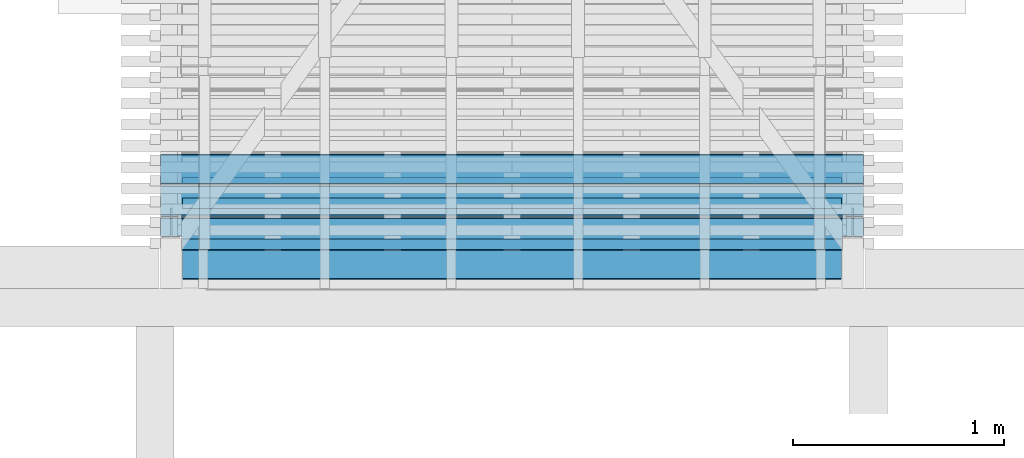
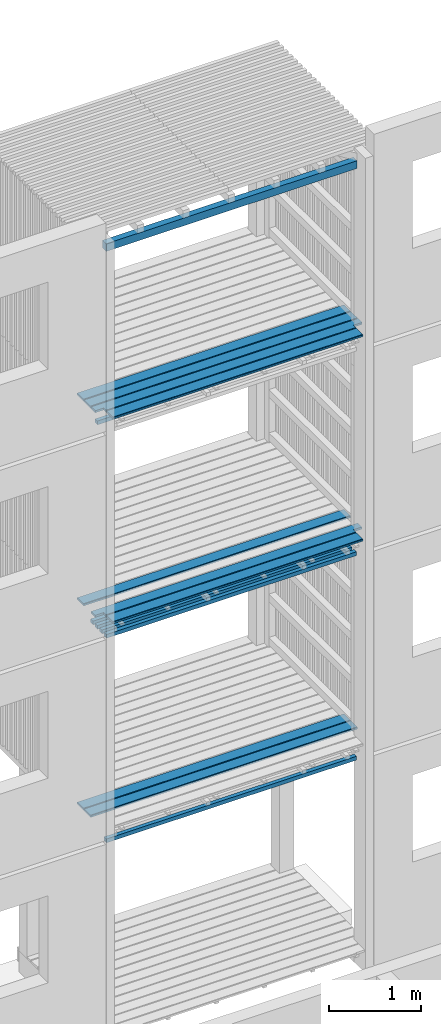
# One storey, part 86 of 182: 16 beams.
"""IFC2X3 building model written with IfcOpenShell, lengths in metres."""

import ifcopenshell
import ifcopenshell.guid

model = None  # the IFC model being written
_history = None  # IfcOwnerHistory: only IFC2X3 demands one
_inside = {}  # id of a spatial element -> (the spatial element, [elements in it])
_under = {}  # id of a project, library or spatial element -> (it, [spatial elements below it])
_declared = {}  # id of a project -> (the project, [libraries it declares])
_typed = {}  # id of a type object -> (the type object, [elements of that type])
_made_of = {}  # id of a material, layer set ... -> (it, [elements and type objects made of it])


def new_model(schema):
    """Start an empty IFC model of exactly this schema.

    Asked for "IFC4X3", IfcOpenShell would pick the latest addendum, in which some entities
    have other attributes; the version numbers below select the first issue.
    IFC2X3 requires an IfcOwnerHistory on every rooted entity: one is made here for all.
    """
    global model, _history
    if schema == "IFC4X3":
        model = ifcopenshell.file(schema_version=(4, 3, 0, 0))
    else:
        model = ifcopenshell.file(schema=schema)
    _inside.clear()
    _under.clear()
    _declared.clear()
    _typed.clear()
    _made_of.clear()
    _history = None
    if model.schema == "IFC2X3":
        org = make("IfcOrganization", Name="unknown")
        user = make(
            "IfcPersonAndOrganization",
            ThePerson=make("IfcPerson", FamilyName="unknown"),
            TheOrganization=org,
        )
        app = make(
            "IfcApplication",
            ApplicationDeveloper=org,
            Version="unknown",
            ApplicationFullName="unknown",
            ApplicationIdentifier="unknown",
        )
        _history = make(
            "IfcOwnerHistory",
            OwningUser=user,
            OwningApplication=app,
            ChangeAction="ADDED",
            CreationDate=0,
        )
    return model


def make(cls, **values):
    """One entity of the class cls with the attributes given. An attribute that is None is left unset."""
    return model.create_entity(
        cls, **{name: value for name, value in values.items() if value is not None}
    )


def rooted(cls, **values):
    """An entity with a GlobalId (a new one), such as an element, a storey or a relation."""
    return make(cls, GlobalId=ifcopenshell.guid.new(), OwnerHistory=_history, **values)


def si_unit(unit_type, name, prefix=None):
    """IfcSIUnit, for example si_unit("LENGTHUNIT", "METRE", prefix="MILLI")."""
    return make("IfcSIUnit", UnitType=unit_type, Prefix=prefix, Name=name)


def assignment(units):
    """IfcUnitAssignment: the units of a project."""
    return None if units is None else make("IfcUnitAssignment", Units=units)


def point(xyz):
    """IfcCartesianPoint."""
    return None if xyz is None else make("IfcCartesianPoint", Coordinates=xyz)


def direction(xyz):
    """IfcDirection."""
    return None if xyz is None else make("IfcDirection", DirectionRatios=xyz)


def frame(location, z_axis=None, x_axis=None):
    """IfcAxis2Placement3D, a coordinate frame: its origin and axes. An axis left out is left unset."""
    return make(
        "IfcAxis2Placement3D",
        Location=point(location),
        Axis=direction(z_axis),
        RefDirection=direction(x_axis),
    )


def origin():
    """The frame at (0, 0, 0) with its axes left unset."""
    return frame((0.0, 0.0, 0.0))


def place(relative_to, where):
    """IfcLocalPlacement: puts the frame where relative to a parent placement (None: the world)."""
    return make(
        "IfcLocalPlacement", PlacementRelTo=relative_to, RelativePlacement=where
    )


def context(
    kind, dimensions, precision=None, world=None, true_north=None, identifier=None
):
    """IfcGeometricRepresentationContext, for example the 3D "Model" context."""
    return make(
        "IfcGeometricRepresentationContext",
        ContextIdentifier=identifier,
        ContextType=kind,
        CoordinateSpaceDimension=dimensions,
        Precision=precision,
        WorldCoordinateSystem=world,
        TrueNorth=true_north,
    )


def project(units=None, contexts=None):
    """IfcProject with its units and contexts."""
    return rooted(
        "IfcProject",
        Name="project",
        RepresentationContexts=contexts,
        UnitsInContext=assignment(units),
    )


def spatial(cls, under=None, at=None, **own):
    """A site, building, storey or space (cls), placed at a placement, below another one or the project."""
    s = rooted(cls, ObjectPlacement=at, **own)
    if under is not None:
        _under.setdefault(under.id(), (under, []))[1].append(s)
    return s


def faces_of(points, faces, orient=None, outer=None):
    """IfcFace entities. A face is a list of loops; a loop is a list of indices into points, from 0.

    orient and outer hold one flag for each loop. By default every Orientation is true, the
    first loop of a face is its IfcFaceOuterBound and the others are IfcFaceBound.
    """
    made = []
    for i, loops in enumerate(faces):
        bounds = []
        for j, loop in enumerate(loops):
            is_outer = j == 0 if outer is None else outer[i][j]
            bounds.append(
                make(
                    "IfcFaceOuterBound" if is_outer else "IfcFaceBound",
                    Bound=make("IfcPolyLoop", Polygon=[points[k] for k in loop]),
                    Orientation=True if orient is None else orient[i][j],
                )
            )
        made.append(make("IfcFace", Bounds=bounds))
    return made


def faceted_brep(points, faces, orient=None, outer=None, voids=None):
    """IfcFacetedBrep: a solid bounded by flat faces; with voids (closed shells), ...WithVoids."""
    shared = [point(p) for p in points]
    hull = make("IfcClosedShell", CfsFaces=faces_of(shared, faces, orient, outer))
    if voids is None:
        return make("IfcFacetedBrep", Outer=hull)
    return make(
        "IfcFacetedBrepWithVoids",
        Outer=hull,
        Voids=[
            make(cls, CfsFaces=faces_of(shared, fs, o, b)) for cls, fs, o, b in voids
        ],
    )


def shape(context_of_items, identifier, shape_type, items):
    """IfcShapeRepresentation: the items that make up one representation, for example the "Body"."""
    return make(
        "IfcShapeRepresentation",
        ContextOfItems=context_of_items,
        RepresentationIdentifier=identifier,
        RepresentationType=shape_type,
        Items=items,
    )


def made_of(thing, what):
    """Note that an element or type object is made of a material, layer set ...; save() writes the relation."""
    if what is not None:
        _made_of.setdefault(what.id(), (what, []))[1].append(thing)
    return thing


def element(
    cls,
    number,
    at=None,
    inside=None,
    cuts=None,
    type_object=None,
    material=None,
    context=None,
    identifier="Body",
    shape_type=None,
    held_by="IfcProductDefinitionShape",
    body=None,
    shapes=None,
    **own,
):
    """One element of the class cls, such as IfcWall. Its Tag is "e" and its number.

    at: its placement. inside: the storey or other place that contains it. cuts: it is an
    opening in that element (IfcRelVoidsElement). A single representation is given by context,
    identifier, shape_type and body (its items); several are given by shapes. held_by: the class
    of the entity that holds the representations. save() writes the other relations.
    """
    e = rooted(cls, Tag="e%d" % number, ObjectPlacement=at, **own)
    if body is not None:
        shapes = [shape(context, identifier, shape_type, body)]
    if shapes is not None:
        e.Representation = make(held_by, Representations=shapes)
    if inside is not None:
        _inside.setdefault(inside.id(), (inside, []))[1].append(e)
    if cuts is not None:
        rooted(
            "IfcRelVoidsElement", RelatingBuildingElement=cuts, RelatedOpeningElement=e
        )
    if type_object is not None:
        _typed.setdefault(type_object.id(), (type_object, []))[1].append(e)
    return made_of(e, material)


def aggregate(whole, parts):
    """IfcRelAggregates: a whole, such as a stair, and the parts it consists of."""
    return rooted("IfcRelAggregates", RelatingObject=whole, RelatedObjects=parts)


def save(model, path):
    """Write the relations noted so far, then the file.

    IfcRelAggregates (storeys below a building ...), IfcRelContainedInSpatialStructure (elements
    in a storey), IfcRelDefinesByType, IfcRelAssociatesMaterial and IfcRelDeclares: one each for
    every whole, place, type object, material and project.
    """
    for whole, parts in _under.values():
        aggregate(whole, parts)
    for where, things in _inside.values():
        rooted(
            "IfcRelContainedInSpatialStructure",
            RelatedElements=things,
            RelatingStructure=where,
        )
    for kind, things in _typed.values():
        rooted("IfcRelDefinesByType", RelatedObjects=things, RelatingType=kind)
    for what, things in _made_of.values():
        rooted("IfcRelAssociatesMaterial", RelatedObjects=things, RelatingMaterial=what)
    for by, libraries in _declared.values():
        rooted("IfcRelDeclares", RelatingContext=by, RelatedDefinitions=libraries)
    model.write(path)


model = new_model("IFC2X3")

# Units and contexts
model_context = context("Model", 3, precision=1e-06, world=origin())
ifc_project = project(units=[si_unit("LENGTHUNIT", "METRE"), si_unit("PLANEANGLEUNIT", "RADIAN")], contexts=[model_context])

# Site, building, storey
site = spatial("IfcSite", under=ifc_project, CompositionType="ELEMENT")
building = spatial("IfcBuilding", under=site, CompositionType="ELEMENT")
storey = spatial("IfcBuildingStorey", under=building, Name="vs", CompositionType="ELEMENT", Elevation=-0.85)

# Beams
placement = place(None, origin())
beam_1_placement = place(placement, frame((46.240401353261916, 5.176952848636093, 5.167999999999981), z_axis=(0.0, 0.0, 1.0), x_axis=(-1.0, 0.0, 0.0)))
element("IfcBeam", 1, at=beam_1_placement, inside=storey, Name="Bardage", context=model_context, shape_type="Brep", body=[
    faceted_brep([(3.120000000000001, 0.025000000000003, -0.025), (3.120000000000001, -0.024999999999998, -0.025), (-3e-15, -0.024999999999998, -0.025), (-3e-15, 0.025000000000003, -0.025), (-3e-15, -0.024999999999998, -0.025), (3.120000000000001, -0.024999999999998, -0.025), (3.120000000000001, -0.024999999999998, 0.025000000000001), (-3e-15, -0.024999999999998, 0.025000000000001), (3.120000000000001, -0.024999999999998, -0.025), (3.120000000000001, 0.025000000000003, -0.025), (3.120000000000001, 0.025000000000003, 0.025000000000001), (3.120000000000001, -0.024999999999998, 0.025000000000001), (3.120000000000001, 0.025000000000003, 0.025000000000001), (3.120000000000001, 0.025000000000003, -0.025), (-3e-15, 0.025000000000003, -0.025), (-3e-15, 0.025000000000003, 0.025000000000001), (-3e-15, -0.024999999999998, 0.025000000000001), (3.120000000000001, -0.024999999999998, 0.025000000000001), (3.120000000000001, 0.025000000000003, 0.025000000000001), (-3e-15, 0.025000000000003, 0.025000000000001), (-3e-15, -0.024999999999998, -0.025), (-3e-15, -0.024999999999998, 0.025000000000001), (-3e-15, 0.025000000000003, 0.025000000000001), (-3e-15, 0.025000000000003, -0.025)], [[[0, 1, 2, 3]], [[4, 5, 6, 7]], [[8, 9, 10, 11]], [[12, 13, 14, 15]], [[16, 17, 18, 19]], [[20, 21, 22, 23]]]),
])
beam_2_placement = place(placement, frame((46.240401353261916, 4.984577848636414, 8.13349999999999), z_axis=(0.0, 0.0, 1.0), x_axis=(-1.0, 0.0, 0.0)))
element("IfcBeam", 2, at=beam_2_placement, inside=storey, Name="Caillebotis", context=model_context, shape_type="Brep", body=[
    faceted_brep([(-3e-15, -0.072500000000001, 0.008500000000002), (-3e-15, -0.067500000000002, 0.013499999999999), (-3e-15, 0.067499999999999, 0.013499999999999), (-3e-15, 0.072499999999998, 0.0085), (-3e-15, 0.072499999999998, -0.013500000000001), (-3e-15, -0.072500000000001, -0.013500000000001), (-3e-15, 0.072499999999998, -0.013500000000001), (-3e-15, 0.072499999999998, 0.0085), (3.120000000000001, 0.072499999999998, 0.008499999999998), (3.120000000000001, 0.072499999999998, -0.013500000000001), (-3e-15, -0.072500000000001, -0.013500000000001), (-3e-15, 0.072499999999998, -0.013500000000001), (3.120000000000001, 0.072499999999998, -0.013500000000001), (3.120000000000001, -0.072500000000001, -0.013500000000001), (-3e-15, -0.072500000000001, 0.008500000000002), (-3e-15, -0.072500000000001, -0.013500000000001), (3.120000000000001, -0.072500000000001, -0.013500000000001), (3.120000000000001, -0.072500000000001, 0.0085), (-3e-15, -0.067500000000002, 0.013499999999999), (-3e-15, -0.072500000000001, 0.008500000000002), (3.120000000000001, -0.072500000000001, 0.0085), (3.120000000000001, -0.067500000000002, 0.013499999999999), (-3e-15, 0.067499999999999, 0.013499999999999), (-3e-15, -0.067500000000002, 0.013499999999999), (3.120000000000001, -0.067500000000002, 0.013499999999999), (3.120000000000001, 0.067499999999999, 0.013499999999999), (-3e-15, 0.072499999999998, 0.0085), (-3e-15, 0.067499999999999, 0.013499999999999), (3.120000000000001, 0.067499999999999, 0.013499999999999), (3.120000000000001, 0.072499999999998, 0.008499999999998), (3.120000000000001, -0.072500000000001, -0.013500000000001), (3.120000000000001, 0.072499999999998, -0.013500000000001), (3.120000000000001, 0.072499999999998, 0.008499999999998), (3.120000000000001, 0.067499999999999, 0.013499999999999), (3.120000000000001, -0.067500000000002, 0.013499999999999), (3.120000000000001, -0.072500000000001, 0.0085)], [[[0, 1, 2, 3, 4, 5]], [[6, 7, 8, 9]], [[10, 11, 12, 13]], [[14, 15, 16, 17]], [[18, 19, 20, 21]], [[22, 23, 24, 25]], [[26, 27, 28, 29]], [[30, 31, 32, 33, 34, 35]]]),
])
beam_3_placement = place(placement, frame((46.34540135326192, 5.134577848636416, 5.433499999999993), z_axis=(0.0, 0.0, 1.0), x_axis=(-1.0, 0.0, 0.0)))
element("IfcBeam", 3, at=beam_3_placement, inside=storey, Name="Caillebotis", context=model_context, shape_type="Brep", body=[
    faceted_brep([(0.0, -0.072499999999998, -0.0135), (0.0, -0.072499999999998, 0.008500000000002), (0.0, -0.067499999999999, 0.0135), (0.0, 0.019500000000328, 0.0135), (0.0, 0.019500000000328, -0.0135), (3.329999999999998, -0.067499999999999, 0.0135), (3.329999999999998, 0.019500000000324, 0.0135), (3.225000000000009, 0.019500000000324, 0.0135), (3.225000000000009, 0.067500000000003, 0.0135), (0.105000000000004, 0.067500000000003, 0.0135), (0.105000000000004, 0.019500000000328, 0.0135), (0.0, 0.019500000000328, 0.0135), (0.0, -0.067499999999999, 0.0135), (0.105000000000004, 0.019500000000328, 0.0135), (0.105000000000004, 0.067500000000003, 0.0135), (0.105000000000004, 0.072500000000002, 0.008500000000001), (0.105000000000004, 0.072500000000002, -0.0135), (0.105000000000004, 0.019500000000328, -0.0135), (0.105000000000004, 0.072500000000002, 0.008500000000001), (0.105000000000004, 0.067500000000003, 0.0135), (3.225000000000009, 0.067500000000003, 0.0135), (3.225000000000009, 0.072500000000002, 0.0085), (0.105000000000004, 0.072500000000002, -0.0135), (0.105000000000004, 0.072500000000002, 0.008500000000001), (3.225000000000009, 0.072500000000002, 0.0085), (3.225000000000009, 0.072500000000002, -0.0135), (3.225000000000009, 0.072500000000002, -0.0135), (3.225000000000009, 0.072500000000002, 0.0085), (3.225000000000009, 0.067500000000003, 0.0135), (3.225000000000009, 0.019500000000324, 0.0135), (3.225000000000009, 0.019500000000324, -0.0135), (3.225000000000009, 0.019500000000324, -0.0135), (3.225000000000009, 0.019500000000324, 0.0135), (3.329999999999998, 0.019500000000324, 0.0135), (3.329999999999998, 0.019500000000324, -0.0135), (3.329999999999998, -0.072499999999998, 0.008500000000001), (3.329999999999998, -0.072499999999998, -0.0135), (3.329999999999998, 0.019500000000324, -0.0135), (3.329999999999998, 0.019500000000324, 0.0135), (3.329999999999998, -0.067499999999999, 0.0135), (3.329999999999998, -0.072499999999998, 0.008500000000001), (3.329999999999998, -0.067499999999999, 0.0135), (0.0, -0.067499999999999, 0.0135), (0.0, -0.072499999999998, 0.008500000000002), (3.329999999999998, -0.072499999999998, -0.0135), (3.329999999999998, -0.072499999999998, 0.008500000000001), (0.0, -0.072499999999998, 0.008500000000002), (0.0, -0.072499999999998, -0.0135), (0.105000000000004, 0.019500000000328, -0.0135), (0.105000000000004, 0.072500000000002, -0.0135), (3.225000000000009, 0.072500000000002, -0.0135), (3.225000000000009, 0.019500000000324, -0.0135), (3.329999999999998, 0.019500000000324, -0.0135), (3.329999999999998, -0.072499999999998, -0.0135), (0.0, -0.072499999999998, -0.0135), (0.0, 0.019500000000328, -0.0135), (0.0, 0.019500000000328, 0.0135), (0.105000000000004, 0.019500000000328, 0.0135), (0.105000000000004, 0.019500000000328, -0.0135), (0.0, 0.019500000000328, -0.0135)], [[[0, 1, 2, 3, 4]], [[5, 6, 7, 8, 9, 10, 11, 12]], [[13, 14, 15, 16, 17]], [[18, 19, 20, 21]], [[22, 23, 24, 25]], [[26, 27, 28, 29, 30]], [[31, 32, 33, 34]], [[35, 36, 37, 38, 39]], [[40, 41, 42, 43]], [[44, 45, 46, 47]], [[48, 49, 50, 51, 52, 53, 54, 55]], [[56, 57, 58, 59]]]),
])
beam_4_placement = place(placement, frame((46.34540135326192, 5.434577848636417, 8.13349999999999), z_axis=(0.0, 0.0, 1.0), x_axis=(-1.0, -1e-15, 0.0)))
element("IfcBeam", 4, at=beam_4_placement, inside=storey, Name="Caillebotis", context=model_context, shape_type="Brep", body=[
    faceted_brep([(3.329999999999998, -0.072500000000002, -0.013500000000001), (3.329999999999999, 0.072500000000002, -0.013500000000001), (3.329999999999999, 0.072500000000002, 0.008499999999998), (3.329999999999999, 0.067499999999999, 0.013499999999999), (3.329999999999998, -0.067499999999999, 0.013499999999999), (3.329999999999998, -0.072500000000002, 0.0085), (0.0, -0.072499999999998, 0.0085), (0.0, -0.067499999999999, 0.013499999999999), (0.0, 0.067500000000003, 0.013499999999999), (0.0, 0.072500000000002, 0.008499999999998), (0.0, 0.072500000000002, -0.013500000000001), (0.0, -0.072499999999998, -0.013500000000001), (3.329999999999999, 0.072500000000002, 0.008499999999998), (3.329999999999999, 0.072500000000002, -0.013500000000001), (0.0, 0.072500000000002, -0.013500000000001), (0.0, 0.072500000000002, 0.008499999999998), (3.329999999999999, 0.067499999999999, 0.013499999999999), (3.329999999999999, 0.072500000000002, 0.008499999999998), (0.0, 0.072500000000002, 0.008499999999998), (0.0, 0.067500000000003, 0.013499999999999), (3.329999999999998, -0.067499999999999, 0.013499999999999), (3.329999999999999, 0.067499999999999, 0.013499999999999), (0.0, 0.067500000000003, 0.013499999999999), (0.0, -0.067499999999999, 0.013499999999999), (3.329999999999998, -0.072500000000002, 0.0085), (3.329999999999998, -0.067499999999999, 0.013499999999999), (0.0, -0.067499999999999, 0.013499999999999), (0.0, -0.072499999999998, 0.0085), (3.329999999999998, -0.072500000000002, -0.013500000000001), (3.329999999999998, -0.072500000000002, 0.0085), (0.0, -0.072499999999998, 0.0085), (0.0, -0.072499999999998, -0.013500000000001), (0.0, 0.072500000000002, -0.013500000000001), (3.329999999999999, 0.072500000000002, -0.013500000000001), (3.329999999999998, -0.072500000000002, -0.013500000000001), (0.0, -0.072499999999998, -0.013500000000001)], [[[0, 1, 2, 3, 4, 5]], [[6, 7, 8, 9, 10, 11]], [[12, 13, 14, 15]], [[16, 17, 18, 19]], [[20, 21, 22, 23]], [[24, 25, 26, 27]], [[28, 29, 30, 31]], [[32, 33, 34, 35]]]),
])
beam_5_placement = place(placement, frame((46.34540135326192, 5.434577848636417, 5.433499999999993), z_axis=(0.0, 0.0, 1.0), x_axis=(-1.0, -1e-15, 0.0)))
element("IfcBeam", 5, at=beam_5_placement, inside=storey, Name="Caillebotis", context=model_context, shape_type="Brep", body=[
    faceted_brep([(3.329999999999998, -0.072500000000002, -0.0135), (3.329999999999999, 0.072500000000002, -0.0135), (3.329999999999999, 0.072500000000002, 0.0085), (3.329999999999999, 0.067499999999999, 0.0135), (3.329999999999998, -0.067499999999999, 0.0135), (3.329999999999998, -0.072500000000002, 0.008500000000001), (0.0, -0.072499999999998, 0.008500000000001), (0.0, -0.067499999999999, 0.0135), (0.0, 0.067500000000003, 0.0135), (0.0, 0.072500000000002, 0.0085), (0.0, 0.072500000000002, -0.0135), (0.0, -0.072499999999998, -0.0135), (3.329999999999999, 0.072500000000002, 0.0085), (3.329999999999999, 0.072500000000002, -0.0135), (0.0, 0.072500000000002, -0.0135), (0.0, 0.072500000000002, 0.0085), (3.329999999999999, 0.067499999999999, 0.0135), (3.329999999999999, 0.072500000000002, 0.0085), (0.0, 0.072500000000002, 0.0085), (0.0, 0.067500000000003, 0.0135), (3.329999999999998, -0.067499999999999, 0.0135), (3.329999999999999, 0.067499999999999, 0.0135), (0.0, 0.067500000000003, 0.0135), (0.0, -0.067499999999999, 0.0135), (3.329999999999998, -0.072500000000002, 0.008500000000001), (3.329999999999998, -0.067499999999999, 0.0135), (0.0, -0.067499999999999, 0.0135), (0.0, -0.072499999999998, 0.008500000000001), (3.329999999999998, -0.072500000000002, -0.0135), (3.329999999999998, -0.072500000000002, 0.008500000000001), (0.0, -0.072499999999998, 0.008500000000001), (0.0, -0.072499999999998, -0.0135), (0.0, 0.072500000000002, -0.0135), (3.329999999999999, 0.072500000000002, -0.0135), (3.329999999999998, -0.072500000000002, -0.0135), (0.0, -0.072499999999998, -0.0135)], [[[0, 1, 2, 3, 4, 5]], [[6, 7, 8, 9, 10, 11]], [[12, 13, 14, 15]], [[16, 17, 18, 19]], [[20, 21, 22, 23]], [[24, 25, 26, 27]], [[28, 29, 30, 31]], [[32, 33, 34, 35]]]),
])
beam_6_placement = place(placement, frame((46.240401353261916, 5.273827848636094, 5.167999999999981), z_axis=(0.0, 0.0, 1.0), x_axis=(-1.0, 0.0, 0.0)))
element("IfcBeam", 6, at=beam_6_placement, inside=storey, Name="Bardage", context=model_context, shape_type="Brep", body=[
    faceted_brep([(3.120000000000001, 0.025000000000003, -0.025), (3.120000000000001, -0.024999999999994, -0.025), (-3e-15, -0.024999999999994, -0.025), (-3e-15, 0.025000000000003, -0.025), (-3e-15, -0.024999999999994, -0.025), (3.120000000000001, -0.024999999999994, -0.025), (3.120000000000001, -0.024999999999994, 0.025000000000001), (-3e-15, -0.024999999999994, 0.025000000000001), (3.120000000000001, -0.024999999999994, -0.025), (3.120000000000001, 0.025000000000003, -0.025), (3.120000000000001, 0.025000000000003, 0.025000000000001), (3.120000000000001, -0.024999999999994, 0.025000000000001), (3.120000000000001, 0.025000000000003, 0.025000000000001), (3.120000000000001, 0.025000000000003, -0.025), (-3e-15, 0.025000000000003, -0.025), (-3e-15, 0.025000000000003, 0.025000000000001), (-3e-15, -0.024999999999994, 0.025000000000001), (3.120000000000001, -0.024999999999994, 0.025000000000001), (3.120000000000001, 0.025000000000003, 0.025000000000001), (-3e-15, 0.025000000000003, 0.025000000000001), (-3e-15, -0.024999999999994, -0.025), (-3e-15, -0.024999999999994, 0.025000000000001), (-3e-15, 0.025000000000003, 0.025000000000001), (-3e-15, 0.025000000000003, -0.025)], [[[0, 1, 2, 3]], [[4, 5, 6, 7]], [[8, 9, 10, 11]], [[12, 13, 14, 15]], [[16, 17, 18, 19]], [[20, 21, 22, 23]]]),
])
beam_7_placement = place(placement, frame((46.240401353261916, 5.080077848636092, 2.467999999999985), z_axis=(0.0, 0.0, 1.0), x_axis=(-1.0, 0.0, 0.0)))
element("IfcBeam", 7, at=beam_7_placement, inside=storey, Name="Bardage", context=model_context, shape_type="Brep", body=[
    faceted_brep([(3.120000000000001, -0.025000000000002, 0.025), (3.120000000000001, -0.025000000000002, -0.025), (3.120000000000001, 0.024999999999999, -0.025), (3.120000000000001, 0.024999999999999, 0.025), (-3e-15, 0.024999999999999, 0.025), (-3e-15, 0.024999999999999, -0.025), (-3e-15, -0.025000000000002, -0.025), (-3e-15, -0.025000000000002, 0.025), (3.120000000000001, -0.025000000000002, -0.025), (3.120000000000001, -0.025000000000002, 0.025), (-3e-15, -0.025000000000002, 0.025), (-3e-15, -0.025000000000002, -0.025), (3.120000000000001, 0.024999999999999, -0.025), (3.120000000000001, -0.025000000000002, -0.025), (-3e-15, -0.025000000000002, -0.025), (-3e-15, 0.024999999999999, -0.025), (3.120000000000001, 0.024999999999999, 0.025), (3.120000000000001, 0.024999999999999, -0.025), (-3e-15, 0.024999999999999, -0.025), (-3e-15, 0.024999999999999, 0.025), (3.120000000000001, -0.025000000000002, 0.025), (3.120000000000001, 0.024999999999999, 0.025), (-3e-15, 0.024999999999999, 0.025), (-3e-15, -0.025000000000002, 0.025)], [[[0, 1, 2, 3]], [[4, 5, 6, 7]], [[8, 9, 10, 11]], [[12, 13, 14, 15]], [[16, 17, 18, 19]], [[20, 21, 22, 23]]]),
])
beam_8_placement = place(placement, frame((46.240401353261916, 4.984577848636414, 5.433499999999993), z_axis=(0.0, 0.0, 1.0), x_axis=(-1.0, 0.0, 0.0)))
element("IfcBeam", 8, at=beam_8_placement, inside=storey, Name="Caillebotis", context=model_context, shape_type="Brep", body=[
    faceted_brep([(-3e-15, -0.072500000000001, 0.008500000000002), (-3e-15, -0.067500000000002, 0.0135), (-3e-15, 0.067499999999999, 0.0135), (-3e-15, 0.072499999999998, 0.008500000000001), (-3e-15, 0.072499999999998, -0.0135), (-3e-15, -0.072500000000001, -0.0135), (-3e-15, 0.072499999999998, -0.0135), (-3e-15, 0.072499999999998, 0.008500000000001), (3.120000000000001, 0.072499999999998, 0.0085), (3.120000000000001, 0.072499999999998, -0.0135), (-3e-15, -0.072500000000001, -0.0135), (-3e-15, 0.072499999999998, -0.0135), (3.120000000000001, 0.072499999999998, -0.0135), (3.120000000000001, -0.072500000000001, -0.0135), (-3e-15, -0.072500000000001, 0.008500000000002), (-3e-15, -0.072500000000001, -0.0135), (3.120000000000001, -0.072500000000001, -0.0135), (3.120000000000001, -0.072500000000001, 0.008500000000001), (-3e-15, -0.067500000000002, 0.0135), (-3e-15, -0.072500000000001, 0.008500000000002), (3.120000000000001, -0.072500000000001, 0.008500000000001), (3.120000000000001, -0.067500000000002, 0.0135), (-3e-15, 0.067499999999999, 0.0135), (-3e-15, -0.067500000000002, 0.0135), (3.120000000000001, -0.067500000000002, 0.0135), (3.120000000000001, 0.067499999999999, 0.0135), (-3e-15, 0.072499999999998, 0.008500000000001), (-3e-15, 0.067499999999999, 0.0135), (3.120000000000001, 0.067499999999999, 0.0135), (3.120000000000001, 0.072499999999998, 0.0085), (3.120000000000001, -0.072500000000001, -0.0135), (3.120000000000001, 0.072499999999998, -0.0135), (3.120000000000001, 0.072499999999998, 0.0085), (3.120000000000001, 0.067499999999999, 0.0135), (3.120000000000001, -0.067500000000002, 0.0135), (3.120000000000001, -0.072500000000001, 0.008500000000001)], [[[0, 1, 2, 3, 4, 5]], [[6, 7, 8, 9]], [[10, 11, 12, 13]], [[14, 15, 16, 17]], [[18, 19, 20, 21]], [[22, 23, 24, 25]], [[26, 27, 28, 29]], [[30, 31, 32, 33, 34, 35]]]),
])
beam_9_placement = place(placement, frame((46.240401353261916, 5.080077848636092, 5.167999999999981), z_axis=(0.0, 0.0, 1.0), x_axis=(-1.0, 0.0, 0.0)))
element("IfcBeam", 9, at=beam_9_placement, inside=storey, Name="Bardage", context=model_context, shape_type="Brep", body=[
    faceted_brep([(3.120000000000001, -0.025000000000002, 0.025000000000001), (3.120000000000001, -0.025000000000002, -0.025), (3.120000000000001, 0.024999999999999, -0.025), (3.120000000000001, 0.024999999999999, 0.025000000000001), (-3e-15, 0.024999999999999, 0.025000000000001), (-3e-15, 0.024999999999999, -0.025), (-3e-15, -0.024999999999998, -0.025), (-3e-15, -0.024999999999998, 0.025000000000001), (3.120000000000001, -0.025000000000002, -0.025), (3.120000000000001, -0.025000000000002, 0.025000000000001), (-3e-15, -0.024999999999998, 0.025000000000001), (-3e-15, -0.024999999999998, -0.025), (3.120000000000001, 0.024999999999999, -0.025), (3.120000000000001, -0.025000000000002, -0.025), (-3e-15, -0.024999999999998, -0.025), (-3e-15, 0.024999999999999, -0.025), (3.120000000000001, 0.024999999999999, 0.025000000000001), (3.120000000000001, 0.024999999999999, -0.025), (-3e-15, 0.024999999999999, -0.025), (-3e-15, 0.024999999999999, 0.025000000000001), (3.120000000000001, -0.025000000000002, 0.025000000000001), (3.120000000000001, 0.024999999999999, 0.025000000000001), (-3e-15, 0.024999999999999, 0.025000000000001), (-3e-15, -0.024999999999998, 0.025000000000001)], [[[0, 1, 2, 3]], [[4, 5, 6, 7]], [[8, 9, 10, 11]], [[12, 13, 14, 15]], [[16, 17, 18, 19]], [[20, 21, 22, 23]]]),
])
beam_10_placement = place(placement, frame((46.245401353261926, 5.09007784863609, 10.30499999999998), z_axis=(0.0, 0.0, 1.0), x_axis=(-1.0, 0.0, 0.0)))
element("IfcBeam", 10, at=beam_10_placement, inside=storey, Name="Support bardage", context=model_context, shape_type="Brep", body=[
    faceted_brep([(2e-15, 0.04, -0.050000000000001), (2e-15, -0.039999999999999, -0.050000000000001), (2e-15, -0.039999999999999, 0.050000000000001), (2e-15, 0.04, 0.050000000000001), (3.130000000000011, -0.039999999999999, 0.050000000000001), (3.130000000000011, -0.039999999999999, -0.050000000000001), (3.130000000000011, 0.04, -0.050000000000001), (3.130000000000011, 0.04, 0.050000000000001), (2e-15, -0.039999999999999, 0.050000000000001), (2e-15, -0.039999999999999, -0.050000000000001), (3.130000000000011, -0.039999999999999, -0.050000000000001), (3.130000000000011, -0.039999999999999, 0.050000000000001), (3.130000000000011, -0.039999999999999, -0.050000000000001), (2e-15, -0.039999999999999, -0.050000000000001), (2e-15, 0.04, -0.050000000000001), (3.130000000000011, 0.04, -0.050000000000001), (3.130000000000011, 0.04, -0.050000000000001), (2e-15, 0.04, -0.050000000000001), (2e-15, 0.04, 0.050000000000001), (3.130000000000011, 0.04, 0.050000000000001), (3.130000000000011, 0.04, 0.050000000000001), (2e-15, 0.04, 0.050000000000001), (2e-15, -0.039999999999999, 0.050000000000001), (3.130000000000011, -0.039999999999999, 0.050000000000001)], [[[0, 1, 2, 3]], [[4, 5, 6, 7]], [[8, 9, 10, 11]], [[12, 13, 14, 15]], [[16, 17, 18, 19]], [[20, 21, 22, 23]]]),
])
beam_11_placement = place(placement, frame((46.240401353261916, 5.273827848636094, 7.867999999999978), z_axis=(0.0, 0.0, 1.0), x_axis=(-1.0, 0.0, 0.0)))
element("IfcBeam", 11, at=beam_11_placement, inside=storey, Name="Bardage", context=model_context, shape_type="Brep", body=[
    faceted_brep([(3.120000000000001, 0.025000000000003, -0.025000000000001), (3.120000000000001, -0.024999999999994, -0.025000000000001), (-3e-15, -0.024999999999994, -0.025000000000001), (-3e-15, 0.025000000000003, -0.025000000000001), (-3e-15, -0.024999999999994, -0.025000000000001), (3.120000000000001, -0.024999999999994, -0.025000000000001), (3.120000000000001, -0.024999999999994, 0.024999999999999), (-3e-15, -0.024999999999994, 0.024999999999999), (3.120000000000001, -0.024999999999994, -0.025000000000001), (3.120000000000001, 0.025000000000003, -0.025000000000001), (3.120000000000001, 0.025000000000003, 0.024999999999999), (3.120000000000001, -0.024999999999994, 0.024999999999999), (3.120000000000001, 0.025000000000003, 0.024999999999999), (3.120000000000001, 0.025000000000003, -0.025000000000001), (-3e-15, 0.025000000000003, -0.025000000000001), (-3e-15, 0.025000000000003, 0.024999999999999), (-3e-15, -0.024999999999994, 0.024999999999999), (3.120000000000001, -0.024999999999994, 0.024999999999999), (3.120000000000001, 0.025000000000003, 0.024999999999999), (-3e-15, 0.025000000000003, 0.024999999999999), (-3e-15, -0.024999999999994, -0.025000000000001), (-3e-15, -0.024999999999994, 0.024999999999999), (-3e-15, 0.025000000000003, 0.024999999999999), (-3e-15, 0.025000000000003, -0.025000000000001)], [[[0, 1, 2, 3]], [[4, 5, 6, 7]], [[8, 9, 10, 11]], [[12, 13, 14, 15]], [[16, 17, 18, 19]], [[20, 21, 22, 23]]]),
])
beam_12_placement = place(placement, frame((46.34540135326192, 5.284577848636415, 8.13349999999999), z_axis=(0.0, 0.0, 1.0), x_axis=(-1.0, -2e-15, 0.0)))
element("IfcBeam", 12, at=beam_12_placement, inside=storey, Name="Caillebotis", context=model_context, shape_type="Brep", body=[
    faceted_brep([(3.329999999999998, -0.072500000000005, -0.013500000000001), (3.329999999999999, 0.072499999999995, -0.013500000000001), (3.329999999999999, 0.072499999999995, 0.008499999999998), (3.329999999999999, 0.067499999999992, 0.013499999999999), (3.329999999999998, -0.067500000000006, 0.013499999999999), (3.329999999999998, -0.072500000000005, 0.0085), (0.0, -0.072500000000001, 0.0085), (0.0, -0.067499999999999, 0.013499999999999), (0.0, 0.067500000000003, 0.013499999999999), (0.0, 0.072500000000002, 0.008499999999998), (0.0, 0.072500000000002, -0.013500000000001), (0.0, -0.072500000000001, -0.013500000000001), (3.329999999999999, 0.072499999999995, 0.008499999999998), (3.329999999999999, 0.072499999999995, -0.013500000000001), (0.0, 0.072500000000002, -0.013500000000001), (0.0, 0.072500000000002, 0.008499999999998), (3.329999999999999, 0.067499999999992, 0.013499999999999), (3.329999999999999, 0.072499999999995, 0.008499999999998), (0.0, 0.072500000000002, 0.008499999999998), (0.0, 0.067500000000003, 0.013499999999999), (3.329999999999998, -0.067500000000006, 0.013499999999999), (3.329999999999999, 0.067499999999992, 0.013499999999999), (0.0, 0.067500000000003, 0.013499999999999), (0.0, -0.067499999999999, 0.013499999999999), (3.329999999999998, -0.072500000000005, 0.0085), (3.329999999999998, -0.067500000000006, 0.013499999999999), (0.0, -0.067499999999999, 0.013499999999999), (0.0, -0.072500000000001, 0.0085), (3.329999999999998, -0.072500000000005, -0.013500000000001), (3.329999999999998, -0.072500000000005, 0.0085), (0.0, -0.072500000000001, 0.0085), (0.0, -0.072500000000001, -0.013500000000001), (0.0, 0.072500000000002, -0.013500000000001), (3.329999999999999, 0.072499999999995, -0.013500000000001), (3.329999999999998, -0.072500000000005, -0.013500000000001), (0.0, -0.072500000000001, -0.013500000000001)], [[[0, 1, 2, 3, 4, 5]], [[6, 7, 8, 9, 10, 11]], [[12, 13, 14, 15]], [[16, 17, 18, 19]], [[20, 21, 22, 23]], [[24, 25, 26, 27]], [[28, 29, 30, 31]], [[32, 33, 34, 35]]]),
])
beam_13_placement = place(placement, frame((46.34540135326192, 5.134577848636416, 8.13349999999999), z_axis=(0.0, 0.0, 1.0), x_axis=(-1.0, 0.0, 0.0)))
element("IfcBeam", 13, at=beam_13_placement, inside=storey, Name="Caillebotis", context=model_context, shape_type="Brep", body=[
    faceted_brep([(0.0, -0.072499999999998, -0.013500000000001), (0.0, -0.072499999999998, 0.0085), (0.0, -0.067499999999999, 0.013499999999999), (0.0, 0.019500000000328, 0.013499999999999), (0.0, 0.019500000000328, -0.013500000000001), (3.329999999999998, -0.067499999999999, 0.013499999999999), (3.329999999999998, 0.019500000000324, 0.013499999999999), (3.225000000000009, 0.019500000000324, 0.013499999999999), (3.225000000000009, 0.067500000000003, 0.013499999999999), (0.105000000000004, 0.067500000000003, 0.013499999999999), (0.105000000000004, 0.019500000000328, 0.013499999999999), (0.0, 0.019500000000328, 0.013499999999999), (0.0, -0.067499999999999, 0.013499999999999), (0.105000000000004, 0.019500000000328, 0.013499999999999), (0.105000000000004, 0.067500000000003, 0.013499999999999), (0.105000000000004, 0.072500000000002, 0.0085), (0.105000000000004, 0.072500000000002, -0.013500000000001), (0.105000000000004, 0.019500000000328, -0.013500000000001), (0.105000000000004, 0.072500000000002, 0.0085), (0.105000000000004, 0.067500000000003, 0.013499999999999), (3.225000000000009, 0.067500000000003, 0.013499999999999), (3.225000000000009, 0.072500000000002, 0.008499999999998), (0.105000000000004, 0.072500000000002, -0.013500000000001), (0.105000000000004, 0.072500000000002, 0.0085), (3.225000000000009, 0.072500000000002, 0.008499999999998), (3.225000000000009, 0.072500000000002, -0.013500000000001), (3.225000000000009, 0.072500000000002, -0.013500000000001), (3.225000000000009, 0.072500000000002, 0.008499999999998), (3.225000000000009, 0.067500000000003, 0.013499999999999), (3.225000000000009, 0.019500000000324, 0.013499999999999), (3.225000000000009, 0.019500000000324, -0.013500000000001), (3.225000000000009, 0.019500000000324, -0.013500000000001), (3.225000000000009, 0.019500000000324, 0.013499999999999), (3.329999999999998, 0.019500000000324, 0.013499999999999), (3.329999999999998, 0.019500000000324, -0.013500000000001), (3.329999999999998, -0.072499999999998, 0.0085), (3.329999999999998, -0.072499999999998, -0.013500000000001), (3.329999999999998, 0.019500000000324, -0.013500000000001), (3.329999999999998, 0.019500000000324, 0.013499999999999), (3.329999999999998, -0.067499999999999, 0.013499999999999), (3.329999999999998, -0.072499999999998, 0.0085), (3.329999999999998, -0.067499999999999, 0.013499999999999), (0.0, -0.067499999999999, 0.013499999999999), (0.0, -0.072499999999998, 0.0085), (3.329999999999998, -0.072499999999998, -0.013500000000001), (3.329999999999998, -0.072499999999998, 0.0085), (0.0, -0.072499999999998, 0.0085), (0.0, -0.072499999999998, -0.013500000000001), (0.105000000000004, 0.019500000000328, -0.013500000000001), (0.105000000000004, 0.072500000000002, -0.013500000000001), (3.225000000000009, 0.072500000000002, -0.013500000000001), (3.225000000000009, 0.019500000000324, -0.013500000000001), (3.329999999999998, 0.019500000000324, -0.013500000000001), (3.329999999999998, -0.072499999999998, -0.013500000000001), (0.0, -0.072499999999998, -0.013500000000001), (0.0, 0.019500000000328, -0.013500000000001), (0.0, 0.019500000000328, 0.013499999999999), (0.105000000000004, 0.019500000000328, 0.013499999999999), (0.105000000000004, 0.019500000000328, -0.013500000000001), (0.0, 0.019500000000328, -0.013500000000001)], [[[0, 1, 2, 3, 4]], [[5, 6, 7, 8, 9, 10, 11, 12]], [[13, 14, 15, 16, 17]], [[18, 19, 20, 21]], [[22, 23, 24, 25]], [[26, 27, 28, 29, 30]], [[31, 32, 33, 34]], [[35, 36, 37, 38, 39]], [[40, 41, 42, 43]], [[44, 45, 46, 47]], [[48, 49, 50, 51, 52, 53, 54, 55]], [[56, 57, 58, 59]]]),
])
beam_14_placement = place(placement, frame((46.240401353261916, 5.370702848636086, 5.167999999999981), z_axis=(0.0, 0.0, 1.0), x_axis=(-1.0, 0.0, 0.0)))
element("IfcBeam", 14, at=beam_14_placement, inside=storey, Name="Bardage", context=model_context, shape_type="Brep", body=[
    faceted_brep([(3.120000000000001, 0.024999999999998, -0.025), (3.120000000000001, -0.025000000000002, -0.025), (-3e-15, -0.025000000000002, -0.025), (-3e-15, 0.024999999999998, -0.025), (-3e-15, -0.025000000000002, -0.025), (3.120000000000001, -0.025000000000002, -0.025), (3.120000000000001, -0.025000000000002, 0.025000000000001), (-3e-15, -0.025000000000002, 0.025000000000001), (3.120000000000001, -0.025000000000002, -0.025), (3.120000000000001, 0.024999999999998, -0.025), (3.120000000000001, 0.024999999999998, 0.025000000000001), (3.120000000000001, -0.025000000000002, 0.025000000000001), (3.120000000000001, 0.024999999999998, 0.025000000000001), (3.120000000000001, 0.024999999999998, -0.025), (-3e-15, 0.024999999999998, -0.025), (-3e-15, 0.024999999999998, 0.025000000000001), (-3e-15, -0.025000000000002, 0.025000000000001), (3.120000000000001, -0.025000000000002, 0.025000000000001), (3.120000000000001, 0.024999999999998, 0.025000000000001), (-3e-15, 0.024999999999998, 0.025000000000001), (-3e-15, -0.025000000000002, -0.025), (-3e-15, -0.025000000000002, 0.025000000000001), (-3e-15, 0.024999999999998, 0.025000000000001), (-3e-15, 0.024999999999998, -0.025)], [[[0, 1, 2, 3]], [[4, 5, 6, 7]], [[8, 9, 10, 11]], [[12, 13, 14, 15]], [[16, 17, 18, 19]], [[20, 21, 22, 23]]]),
])
beam_15_placement = place(placement, frame((46.34540135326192, 5.434577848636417, 2.733499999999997), z_axis=(0.0, 0.0, 1.0), x_axis=(-1.0, -1e-15, 0.0)))
element("IfcBeam", 15, at=beam_15_placement, inside=storey, Name="Caillebotis", context=model_context, shape_type="Brep", body=[
    faceted_brep([(3.329999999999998, -0.072500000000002, -0.0135), (3.329999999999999, 0.072500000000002, -0.0135), (3.329999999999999, 0.072500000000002, 0.0085), (3.329999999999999, 0.067499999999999, 0.0135), (3.329999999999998, -0.067499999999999, 0.0135), (3.329999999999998, -0.072500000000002, 0.008500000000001), (0.0, -0.072499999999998, 0.008500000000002), (0.0, -0.067499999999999, 0.0135), (0.0, 0.067500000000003, 0.0135), (0.0, 0.072500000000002, 0.0085), (0.0, 0.072500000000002, -0.0135), (0.0, -0.072499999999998, -0.0135), (3.329999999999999, 0.072500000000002, 0.0085), (3.329999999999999, 0.072500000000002, -0.0135), (0.0, 0.072500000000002, -0.0135), (0.0, 0.072500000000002, 0.0085), (3.329999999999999, 0.067499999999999, 0.0135), (3.329999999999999, 0.072500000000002, 0.0085), (0.0, 0.072500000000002, 0.0085), (0.0, 0.067500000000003, 0.0135), (3.329999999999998, -0.067499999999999, 0.0135), (3.329999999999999, 0.067499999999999, 0.0135), (0.0, 0.067500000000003, 0.0135), (0.0, -0.067499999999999, 0.0135), (3.329999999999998, -0.072500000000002, 0.008500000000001), (3.329999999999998, -0.067499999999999, 0.0135), (0.0, -0.067499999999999, 0.0135), (0.0, -0.072499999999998, 0.008500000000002), (3.329999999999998, -0.072500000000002, -0.0135), (3.329999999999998, -0.072500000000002, 0.008500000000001), (0.0, -0.072499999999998, 0.008500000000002), (0.0, -0.072499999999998, -0.0135), (0.0, 0.072500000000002, -0.0135), (3.329999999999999, 0.072500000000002, -0.0135), (3.329999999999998, -0.072500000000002, -0.0135), (0.0, -0.072499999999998, -0.0135)], [[[0, 1, 2, 3, 4, 5]], [[6, 7, 8, 9, 10, 11]], [[12, 13, 14, 15]], [[16, 17, 18, 19]], [[20, 21, 22, 23]], [[24, 25, 26, 27]], [[28, 29, 30, 31]], [[32, 33, 34, 35]]]),
])
beam_16_placement = place(placement, frame((46.34540135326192, 5.284577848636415, 2.733499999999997), z_axis=(0.0, 0.0, 1.0), x_axis=(-1.0, -2e-15, 0.0)))
element("IfcBeam", 16, at=beam_16_placement, inside=storey, Name="Caillebotis", context=model_context, shape_type="Brep", body=[
    faceted_brep([(3.329999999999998, -0.072500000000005, -0.0135), (3.329999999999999, 0.072499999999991, -0.0135), (3.329999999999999, 0.072499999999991, 0.0085), (3.329999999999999, 0.067499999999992, 0.0135), (3.329999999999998, -0.067500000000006, 0.0135), (3.329999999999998, -0.072500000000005, 0.008500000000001), (0.0, -0.072500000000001, 0.008500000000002), (0.0, -0.067499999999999, 0.0135), (0.0, 0.067499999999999, 0.0135), (0.0, 0.072500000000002, 0.0085), (0.0, 0.072500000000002, -0.0135), (0.0, -0.072500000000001, -0.0135), (3.329999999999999, 0.072499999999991, 0.0085), (3.329999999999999, 0.072499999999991, -0.0135), (0.0, 0.072500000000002, -0.0135), (0.0, 0.072500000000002, 0.0085), (3.329999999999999, 0.067499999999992, 0.0135), (3.329999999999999, 0.072499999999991, 0.0085), (0.0, 0.072500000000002, 0.0085), (0.0, 0.067499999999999, 0.0135), (3.329999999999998, -0.067500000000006, 0.0135), (3.329999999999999, 0.067499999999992, 0.0135), (0.0, 0.067499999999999, 0.0135), (0.0, -0.067499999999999, 0.0135), (3.329999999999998, -0.072500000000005, 0.008500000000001), (3.329999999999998, -0.067500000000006, 0.0135), (0.0, -0.067499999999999, 0.0135), (0.0, -0.072500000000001, 0.008500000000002), (3.329999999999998, -0.072500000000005, -0.0135), (3.329999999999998, -0.072500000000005, 0.008500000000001), (0.0, -0.072500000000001, 0.008500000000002), (0.0, -0.072500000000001, -0.0135), (0.0, 0.072500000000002, -0.0135), (3.329999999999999, 0.072499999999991, -0.0135), (3.329999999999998, -0.072500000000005, -0.0135), (0.0, -0.072500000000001, -0.0135)], [[[0, 1, 2, 3, 4, 5]], [[6, 7, 8, 9, 10, 11]], [[12, 13, 14, 15]], [[16, 17, 18, 19]], [[20, 21, 22, 23]], [[24, 25, 26, 27]], [[28, 29, 30, 31]], [[32, 33, 34, 35]]]),
])

save(model, "model.ifc")
